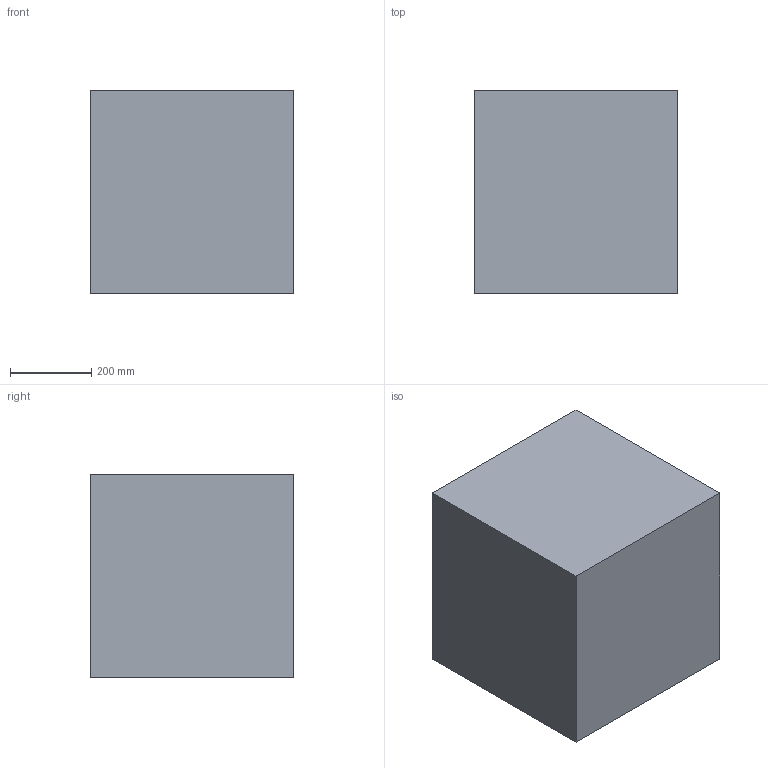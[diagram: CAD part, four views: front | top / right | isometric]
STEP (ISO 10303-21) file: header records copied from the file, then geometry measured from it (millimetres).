
FILE_DESCRIPTION(('FreeCAD Model'),'2;1');
FILE_NAME('Open CASCADE Shape Model','2026-03-31T09:49:25',('FreeCAD'),( 'FreeCAD'),'Open CASCADE STEP processor 7.8','FreeCAD','Unknown');
FILE_SCHEMA(('AUTOMOTIVE_DESIGN { 1 0 10303 214 1 1 1 1 }'));
Length unit declared in the file: millimetre
Products named in the file (1): Open CASCADE STEP translator 7.8 1
Bounding box: 500 x 500 x 500 mm (x, y, z)
Volume: 125000000 mm3; surface area: 1500000 mm2
Topology: 1 solids, 1 shells, 6 faces, 12 edges, 8 vertices
Faces by surface type: plane 6
Entity records: 166 total; most frequent: CARTESIAN_POINT 27, DIRECTION 26, ORIENTED_EDGE 24, EDGE_CURVE 12, LINE 12, VECTOR 12, VERTEX_POINT 8, AXIS2_PLACEMENT_3D 7
